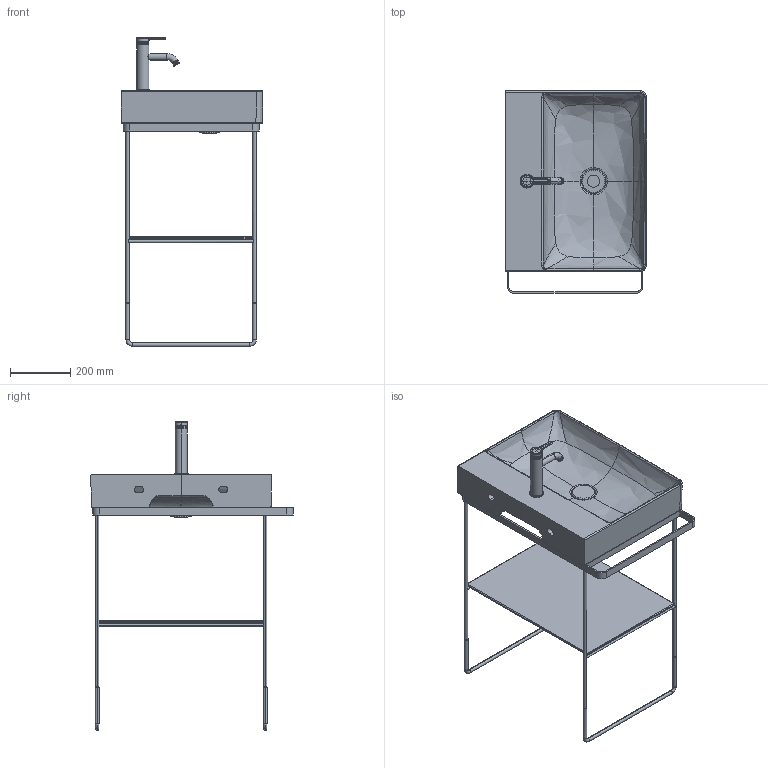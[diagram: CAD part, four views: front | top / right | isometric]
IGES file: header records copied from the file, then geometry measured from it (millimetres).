
Global section: file name: No Iges File Name specified; native system: Autodesk Inventor 2011; preprocessor: AutoDesk Inventor Iges Exporter R2011; author: Administrator; date: 20170629.140755; units: millimetre
Bounding box: 470.06 x 671.98 x 1025.47 mm (x, y, z)
Volume: 12550074.6 mm3; surface area: 1916068.4 mm2
Topology: 18 solids, 21 shells, 636 faces, 1521 edges, 935 vertices
Faces by surface type: bspline 178, plane 171, revolution 116, cylinder 103, torus 37, cone 28, sphere 3
